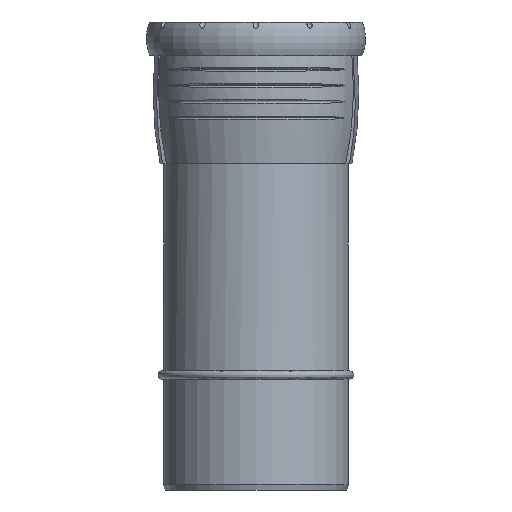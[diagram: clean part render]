
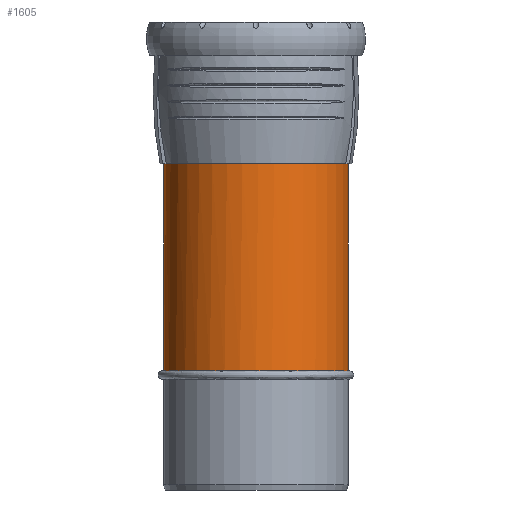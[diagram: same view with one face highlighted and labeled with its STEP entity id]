
A CAD part, left-side view. The second image highlights one B-rep face of the part: STEP entity #1605.
In plain terms, the highlighted cylindrical face has radius 62.6 mm (diameter 125.2 mm), a full revolution.
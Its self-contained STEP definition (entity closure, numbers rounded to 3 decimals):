
#27=B_SPLINE_CURVE_WITH_KNOTS('',3,(#2265,#2266,#2267,#2268),
 .UNSPECIFIED.,.F.,.F.,(4,4),(13.45,13.53),
 .UNSPECIFIED.);
#28=B_SPLINE_CURVE_WITH_KNOTS('',3,(#2274,#2275,#2276,#2277),
 .UNSPECIFIED.,.F.,.F.,(4,4),(7.436,7.516),
 .UNSPECIFIED.);
#29=B_SPLINE_CURVE_WITH_KNOTS('',3,(#2285,#2286,#2287,#2288,#2289,#2290,
#2291,#2292,#2293,#2294,#2295,#2296,#2297,#2298,#2299,#2300,#2301,#2302,
#2303,#2304,#2305,#2306,#2307,#2308,#2309,#2310,#2311,#2312,#2313,#2314,
#2315,#2316,#2317,#2318,#2319,#2320,#2321,#2322,#2323,#2324,#2325,#2326,
#2327,#2328,#2329,#2330,#2331,#2332,#2333,#2334,#2335,#2336,#2337,#2338,
#2339,#2340,#2341,#2342,#2343,#2344,#2345,#2346,#2347,#2348,#2349,#2350,
#2351,#2352,#2353,#2354,#2355,#2356,#2357,#2358,#2359,#2360,#2361,#2362,
#2363),.UNSPECIFIED.,.F.,.F.,(4,2,2,2,2,2,2,3,2,2,2,2,2,2,2,2,2,2,2,2,2,
2,2,2,2,2,2,2,2,2,2,2,2,2,2,2,2,2,4),(-9.993,-9.988,
-8.609,-7.45,-6.292,-3.976,
-1.988,0.,0.556,1.112,1.669,2.225,
2.73,3.234,3.739,4.244,5.335,
6.427,7.518,8.609,9.701,10.792,
11.884,12.975,13.48,13.985,14.489,
14.994,15.55,16.107,16.663,17.219,
19.207,21.194,23.511,24.669,25.827,
27.207,27.212),.UNSPECIFIED.);
#239=FACE_BOUND('',#400,.T.);
#293=FACE_OUTER_BOUND('',#399,.T.);
#399=EDGE_LOOP('',(#1026,#1027,#1028,#1029));
#400=EDGE_LOOP('',(#1030));
#538=CIRCLE('',#1728,62.6);
#540=CIRCLE('',#1733,62.6);
#610=VERTEX_POINT('',#2261);
#611=VERTEX_POINT('',#2263);
#612=VERTEX_POINT('',#2270);
#614=VERTEX_POINT('',#2273);
#615=VERTEX_POINT('',#2365);
#779=EDGE_CURVE('',#610,#611,#27,.T.);
#781=EDGE_CURVE('',#614,#612,#28,.T.);
#784=EDGE_CURVE('',#612,#610,#538,.T.);
#786=EDGE_CURVE('',#611,#614,#29,.T.);
#787=EDGE_CURVE('',#615,#615,#540,.T.);
#1026=ORIENTED_EDGE('',*,*,#781,.T.);
#1027=ORIENTED_EDGE('',*,*,#784,.T.);
#1028=ORIENTED_EDGE('',*,*,#779,.T.);
#1029=ORIENTED_EDGE('',*,*,#786,.T.);
#1030=ORIENTED_EDGE('',*,*,#787,.F.);
#1450=CYLINDRICAL_SURFACE('',#1732,62.6);
#1605=ADVANCED_FACE('',(#293,#239),#1450,.T.);
#1728=AXIS2_PLACEMENT_3D('',#2281,#1912,#1913);
#1732=AXIS2_PLACEMENT_3D('',#2364,#1920,#1921);
#1733=AXIS2_PLACEMENT_3D('',#2366,#1922,#1923);
#1912=DIRECTION('center_axis',(0.,0.,
-1.));
#1913=DIRECTION('ref_axis',(-1.,0.,0.));
#1920=DIRECTION('center_axis',(0.,0.,
-1.));
#1921=DIRECTION('ref_axis',(0.,-1.,0.));
#1922=DIRECTION('center_axis',(0.,0.,
-1.));
#1923=DIRECTION('ref_axis',(-1.,0.,0.));
#2261=CARTESIAN_POINT('',(57.262,25.294,220.91));
#2263=CARTESIAN_POINT('',(57.034,25.805,220.303));
#2265=CARTESIAN_POINT('Ctrl Pts',(57.262,25.294,220.91));
#2266=CARTESIAN_POINT('Ctrl Pts',(57.186,25.466,220.708));
#2267=CARTESIAN_POINT('Ctrl Pts',(57.11,25.637,220.506));
#2268=CARTESIAN_POINT('Ctrl Pts',(57.034,25.805,220.303));
#2270=CARTESIAN_POINT('',(57.262,-25.294,220.91));
#2273=CARTESIAN_POINT('',(57.034,-25.805,220.303));
#2274=CARTESIAN_POINT('Ctrl Pts',(57.034,-25.805,220.303));
#2275=CARTESIAN_POINT('Ctrl Pts',(57.11,-25.637,220.506));
#2276=CARTESIAN_POINT('Ctrl Pts',(57.186,-25.466,220.708));
#2277=CARTESIAN_POINT('Ctrl Pts',(57.262,-25.294,220.91));
#2281=CARTESIAN_POINT('Origin',(0.,0.,
220.91));
#2285=CARTESIAN_POINT('Ctrl Pts',(57.034,25.805,220.303));
#2286=CARTESIAN_POINT('Ctrl Pts',(57.028,25.817,220.289));
#2287=CARTESIAN_POINT('Ctrl Pts',(57.023,25.829,220.275));
#2288=CARTESIAN_POINT('Ctrl Pts',(55.629,28.904,216.572));
#2289=CARTESIAN_POINT('Ctrl Pts',(54.126,31.557,212.543));
#2290=CARTESIAN_POINT('Ctrl Pts',(51.552,35.579,205.562));
#2291=CARTESIAN_POINT('Ctrl Pts',(50.301,37.321,202.138));
#2292=CARTESIAN_POINT('Ctrl Pts',(47.728,40.56,194.99));
#2293=CARTESIAN_POINT('Ctrl Pts',(46.406,42.057,191.267));
#2294=CARTESIAN_POINT('Ctrl Pts',(42.47,46.145,179.931));
#2295=CARTESIAN_POINT('Ctrl Pts',(39.886,48.326,172.148));
#2296=CARTESIAN_POINT('Ctrl Pts',(35.819,51.394,158.735));
#2297=CARTESIAN_POINT('Ctrl Pts',(33.872,52.675,151.838));
#2298=CARTESIAN_POINT('Ctrl Pts',(30.817,54.519,137.848));
#2299=CARTESIAN_POINT('Ctrl Pts',(29.711,55.1,130.757));
#2300=CARTESIAN_POINT('Ctrl Pts',(29.711,55.1,124.131));
#2301=CARTESIAN_POINT('Ctrl Pts',(29.711,55.1,122.277));
#2302=CARTESIAN_POINT('Ctrl Pts',(29.799,55.053,120.337));
#2303=CARTESIAN_POINT('Ctrl Pts',(30.237,54.814,116.434));
#2304=CARTESIAN_POINT('Ctrl Pts',(30.588,54.621,114.471));
#2305=CARTESIAN_POINT('Ctrl Pts',(31.588,54.049,110.666));
#2306=CARTESIAN_POINT('Ctrl Pts',(32.238,53.668,108.82));
#2307=CARTESIAN_POINT('Ctrl Pts',(33.778,52.712,105.361));
#2308=CARTESIAN_POINT('Ctrl Pts',(34.667,52.137,103.748));
#2309=CARTESIAN_POINT('Ctrl Pts',(36.45,50.904,100.953));
#2310=CARTESIAN_POINT('Ctrl Pts',(37.399,50.216,99.648));
#2311=CARTESIAN_POINT('Ctrl Pts',(39.422,48.645,97.158));
#2312=CARTESIAN_POINT('Ctrl Pts',(40.493,47.761,95.973));
#2313=CARTESIAN_POINT('Ctrl Pts',(42.662,45.835,93.757));
#2314=CARTESIAN_POINT('Ctrl Pts',(43.759,44.791,92.726));
#2315=CARTESIAN_POINT('Ctrl Pts',(45.888,42.607,90.834));
#2316=CARTESIAN_POINT('Ctrl Pts',(46.92,41.467,89.972));
#2317=CARTESIAN_POINT('Ctrl Pts',(49.964,37.852,87.527));
#2318=CARTESIAN_POINT('Ctrl Pts',(51.998,35.041,86.044));
#2319=CARTESIAN_POINT('Ctrl Pts',(55.657,28.878,83.498));
#2320=CARTESIAN_POINT('Ctrl Pts',(57.282,25.527,82.433));
#2321=CARTESIAN_POINT('Ctrl Pts',(59.921,18.501,80.742));
#2322=CARTESIAN_POINT('Ctrl Pts',(60.938,14.82,80.114));
#2323=CARTESIAN_POINT('Ctrl Pts',(62.277,7.388,79.291));
#2324=CARTESIAN_POINT('Ctrl Pts',(62.6,3.638,79.097));
#2325=CARTESIAN_POINT('Ctrl Pts',(62.6,-3.638,79.097));
#2326=CARTESIAN_POINT('Ctrl Pts',(62.277,-7.388,79.291));
#2327=CARTESIAN_POINT('Ctrl Pts',(60.938,-14.82,80.114));
#2328=CARTESIAN_POINT('Ctrl Pts',(59.921,-18.501,80.742));
#2329=CARTESIAN_POINT('Ctrl Pts',(57.282,-25.527,82.433));
#2330=CARTESIAN_POINT('Ctrl Pts',(55.657,-28.878,83.498));
#2331=CARTESIAN_POINT('Ctrl Pts',(51.998,-35.041,86.044));
#2332=CARTESIAN_POINT('Ctrl Pts',(49.964,-37.852,87.527));
#2333=CARTESIAN_POINT('Ctrl Pts',(46.92,-41.467,89.972));
#2334=CARTESIAN_POINT('Ctrl Pts',(45.888,-42.607,90.834));
#2335=CARTESIAN_POINT('Ctrl Pts',(43.759,-44.791,92.726));
#2336=CARTESIAN_POINT('Ctrl Pts',(42.662,-45.835,93.757));
#2337=CARTESIAN_POINT('Ctrl Pts',(40.493,-47.761,95.973));
#2338=CARTESIAN_POINT('Ctrl Pts',(39.422,-48.645,97.158));
#2339=CARTESIAN_POINT('Ctrl Pts',(37.399,-50.216,99.648));
#2340=CARTESIAN_POINT('Ctrl Pts',(36.45,-50.904,100.953));
#2341=CARTESIAN_POINT('Ctrl Pts',(34.667,-52.137,103.748));
#2342=CARTESIAN_POINT('Ctrl Pts',(33.778,-52.712,105.361));
#2343=CARTESIAN_POINT('Ctrl Pts',(32.238,-53.668,108.82));
#2344=CARTESIAN_POINT('Ctrl Pts',(31.588,-54.049,110.666));
#2345=CARTESIAN_POINT('Ctrl Pts',(30.588,-54.621,114.471));
#2346=CARTESIAN_POINT('Ctrl Pts',(30.237,-54.814,116.434));
#2347=CARTESIAN_POINT('Ctrl Pts',(29.799,-55.053,120.337));
#2348=CARTESIAN_POINT('Ctrl Pts',(29.711,-55.1,122.277));
#2349=CARTESIAN_POINT('Ctrl Pts',(29.711,-55.1,130.757));
#2350=CARTESIAN_POINT('Ctrl Pts',(30.817,-54.519,137.848));
#2351=CARTESIAN_POINT('Ctrl Pts',(33.872,-52.675,151.838));
#2352=CARTESIAN_POINT('Ctrl Pts',(35.819,-51.394,158.735));
#2353=CARTESIAN_POINT('Ctrl Pts',(39.886,-48.326,172.148));
#2354=CARTESIAN_POINT('Ctrl Pts',(42.47,-46.145,179.931));
#2355=CARTESIAN_POINT('Ctrl Pts',(46.406,-42.057,191.267));
#2356=CARTESIAN_POINT('Ctrl Pts',(47.728,-40.56,194.99));
#2357=CARTESIAN_POINT('Ctrl Pts',(50.301,-37.321,202.138));
#2358=CARTESIAN_POINT('Ctrl Pts',(51.552,-35.579,205.562));
#2359=CARTESIAN_POINT('Ctrl Pts',(54.126,-31.557,212.543));
#2360=CARTESIAN_POINT('Ctrl Pts',(55.629,-28.904,216.572));
#2361=CARTESIAN_POINT('Ctrl Pts',(57.023,-25.829,220.275));
#2362=CARTESIAN_POINT('Ctrl Pts',(57.028,-25.817,220.289));
#2363=CARTESIAN_POINT('Ctrl Pts',(57.034,-25.805,220.303));
#2364=CARTESIAN_POINT('Origin',(0.,0.,
147.905));
#2365=CARTESIAN_POINT('',(0.,-62.6,74.9));
#2366=CARTESIAN_POINT('Origin',(0.,0.,
74.9));
